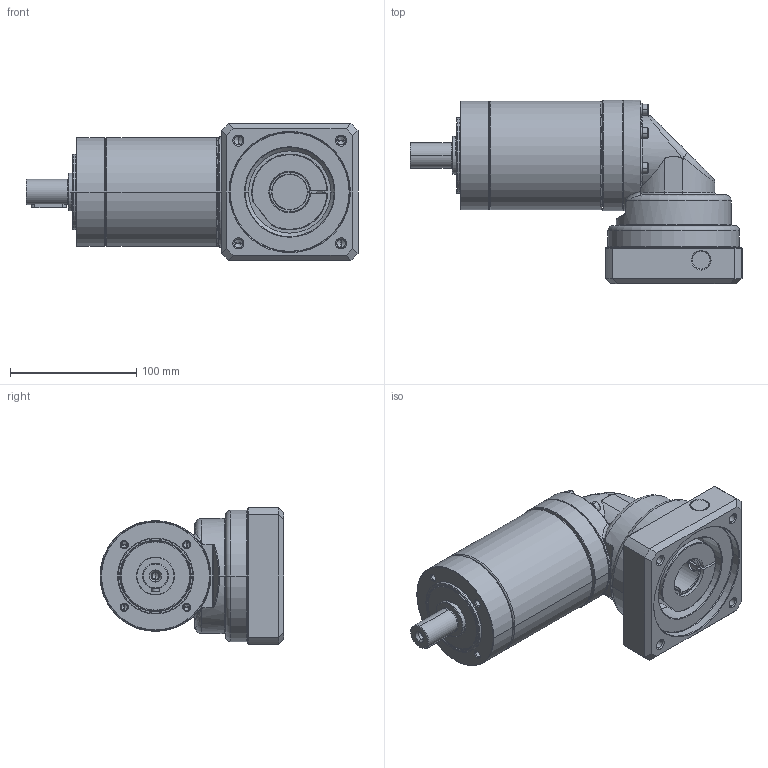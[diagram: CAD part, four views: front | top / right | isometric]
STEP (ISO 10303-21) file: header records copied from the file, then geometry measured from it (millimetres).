
FILE_DESCRIPTION((''),'2;1');
FILE_NAME('PG2R-080_3ST_28-P0411600101_ASM','2016-04-27T',('d01943'),(''),'PRO/ENGINEER BY PARAMETRIC TECHNOLOGY CORPORATION, 2008410','PRO/ENGINEER BY PARAMETRIC TECHNOLOGY CORPORATION, 2008410','');
FILE_SCHEMA(('CONFIG_CONTROL_DESIGN'));
Length unit declared in the file: millimetre
Products named in the file (12): P1325310001; P0273300001; P0350301103; P1349300001; P1017300001; P0713303001; P0503600008; P1350300301; P0411600101; P1702500001; 2111BA05025; PG2R-080_3ST_28-P0411600101_ASM
Assembly tree (16 placements, depth 2):
  PG2R-080_3ST_28-P0411600101_ASM
    P1325310001
    P0273300001
    P0350301103
    P1349300001
    P1017300001
    P0713303001
    P0503600008
    P1350300301
    P0411600101
    P1702500001
    2111BA05025  x6
Bounding box: 262.5 x 145.25 x 108 mm (x, y, z)
Volume: 984841.9 mm3; surface area: 241817 mm2
Topology: 16 solids, 17 shells, 778 faces, 1700 edges, 988 vertices
Faces by surface type: cylinder 244, cone 214, plane 192, torus 96, bspline 32
Entity records: 22625 total; most frequent: CARTESIAN_POINT 8829, DIRECTION 3077, ORIENTED_EDGE 2648, EDGE_CURVE 1324, AXIS2_PLACEMENT_3D 1300, VERTEX_POINT 788, EDGE_LOOP 698, CIRCLE 691
